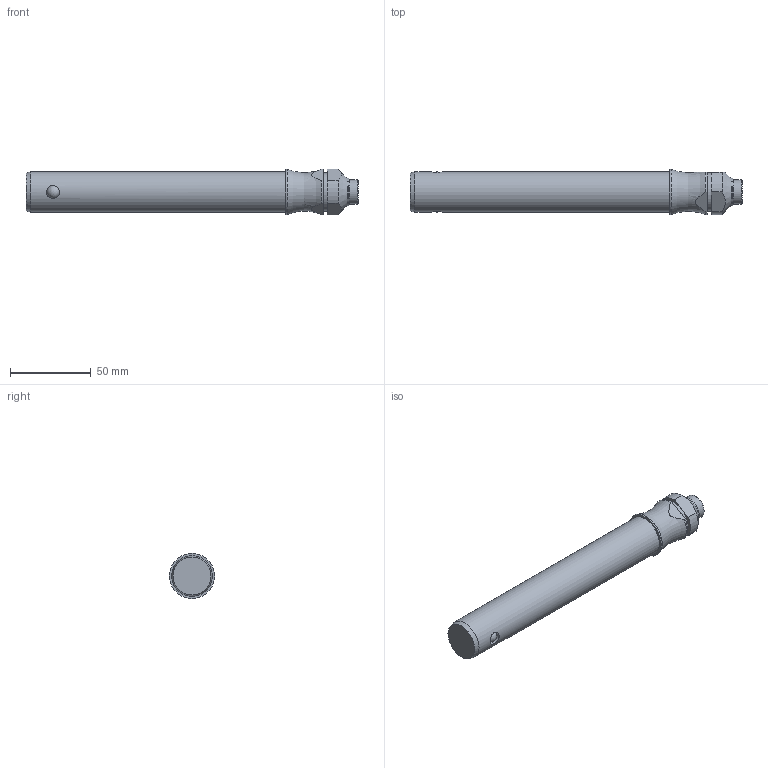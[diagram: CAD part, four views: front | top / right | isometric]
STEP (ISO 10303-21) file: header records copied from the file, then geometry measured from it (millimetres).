
FILE_DESCRIPTION( ( 'STEP AP203' ), '1' );
FILE_NAME( 'C:/Temp/Ganter_Step_05_03_2020/data/3_1/gn113_3/Stainless Steel-Ball lock pin GN 113.3-25-140 (activated).stp', '2020-03-12T08:19:14', ( 'License CC BY-ND 4.0' ), ( 'CADENAS' ), ' ', 'PARTsolutions', ' ' );
FILE_SCHEMA( ( 'CONFIG_CONTROL_DESIGN' ) );
Length unit declared in the file: millimetre
Products named in the file (1): _Stainless Steel-Ball lock pin GN 113.3-25-140 (activated)
Bounding box: 205.05 x 28 x 28 mm (x, y, z)
Volume: 98387.2 mm3; surface area: 17349.6 mm2
Topology: 1 solids, 1 shells, 31 faces, 74 edges, 46 vertices
Faces by surface type: cylinder 13, plane 11, cone 4, sphere 2, torus 1
Full cylindrical faces by diameter (mm): 8 x2, 15 x1, 17 x1, 24 x1, 25 x1, 28 x1
Entity records: 1046 total; most frequent: CARTESIAN_POINT 382, DIRECTION 134, ORIENTED_EDGE 104, AXIS2_PLACEMENT_3D 58, EDGE_CURVE 52, EDGE_LOOP 48, VERTEX_POINT 40, FACE_OUTER_BOUND 39
